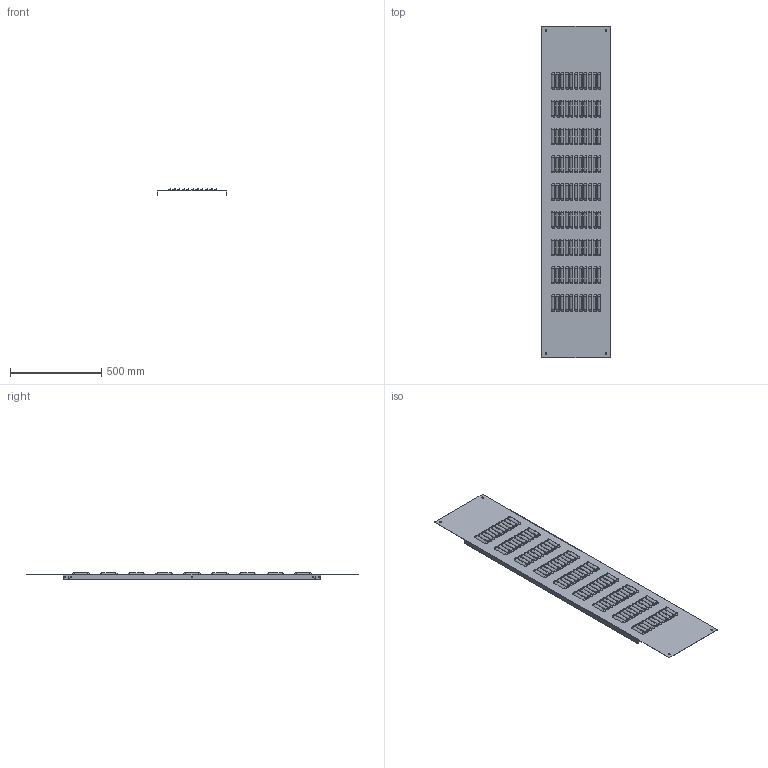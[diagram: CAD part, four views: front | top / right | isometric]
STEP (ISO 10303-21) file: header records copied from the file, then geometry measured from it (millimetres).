
FILE_DESCRIPTION((''),'2;1');
FILE_NAME('FLOOR-KIT-SKIRT-ASSEMBLY_ASM','2016-05-31T',('dougp'),('SAGINAW CONTROL & ENGINEERING'),'PRO/ENGINEER BY PARAMETRIC TECHNOLOGY CORPORATION, 2012070','PRO/ENGINEER BY PARAMETRIC TECHNOLOGY CORPORATION, 2012070','');
FILE_SCHEMA(('AUTOMOTIVE_DESIGN { 1 0 10303 214 1 1 1 1 }'));
Products named in the file (3): FLOOR-KIT-SKIRT; 121214; FLOOR-KIT-SKIRT-ASSEMBLY_ASM
Assembly tree (2 placements, depth 2):
  FLOOR-KIT-SKIRT-ASSEMBLY_ASM
    FLOOR-KIT-SKIRT
    121214
Bounding box: 379.41 x 1822.45 x 33.32 mm (x, y, z)
Volume: 1195101.6 mm3; surface area: 1608226.4 mm2
Topology: 1 solids, 1 shells, 1666 faces, 4184 edges, 2520 vertices
Faces by surface type: bspline 606, plane 434, torus 396, cylinder 230
Entity records: 81207 total; most frequent: CARTESIAN_POINT 45293, ORIENTED_EDGE 8368, DIRECTION 5586, EDGE_CURVE 4184, VERTEX_POINT 2520, VECTOR 2124, LINE 2124, EDGE_LOOP 1884
